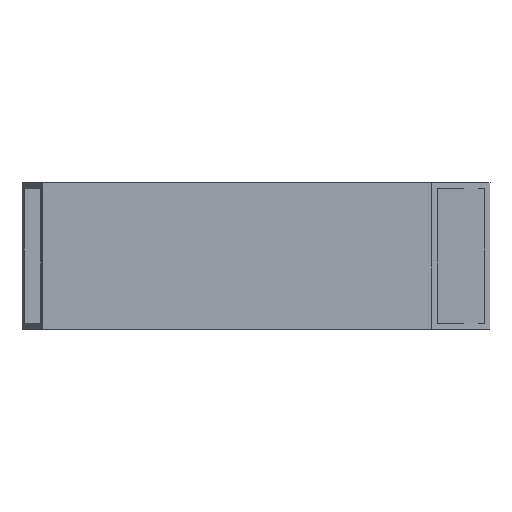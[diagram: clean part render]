
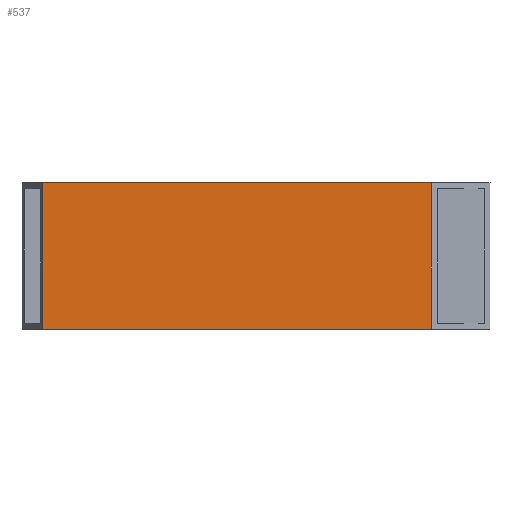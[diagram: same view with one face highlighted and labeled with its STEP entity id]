
A CAD part, top view. The second image highlights one B-rep face of the part: STEP entity #537.
In plain terms, the highlighted planar face has unit normal (0, 0, 1).
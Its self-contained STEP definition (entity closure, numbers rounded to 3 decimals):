
#266=ORIENTED_EDGE('',*,*,#378,.T.);
#267=ORIENTED_EDGE('',*,*,#379,.F.);
#268=ORIENTED_EDGE('',*,*,#374,.F.);
#269=ORIENTED_EDGE('',*,*,#380,.T.);
#310=VECTOR('',#424,1.);
#314=VECTOR('',#430,1.);
#315=VECTOR('',#431,1.);
#316=VECTOR('',#432,1.);
#334=LINE('',#469,#310);
#338=LINE('',#478,#314);
#339=LINE('',#479,#315);
#340=LINE('',#480,#316);
#358=VERTEX_POINT('',#467);
#359=VERTEX_POINT('',#468);
#362=VERTEX_POINT('',#476);
#363=VERTEX_POINT('',#477);
#374=EDGE_CURVE('',#358,#359,#334,.T.);
#378=EDGE_CURVE('',#362,#363,#338,.T.);
#379=EDGE_CURVE('',#359,#363,#339,.T.);
#380=EDGE_CURVE('',#358,#362,#340,.T.);
#399=EDGE_LOOP('',(#266,#267,#268,#269));
#411=FACE_BOUND('',#399,.T.);
#424=DIRECTION('',(-132.487,0.,0.));
#428=DIRECTION('',(0.,0.,1.));
#429=DIRECTION('',(0.,-1.,0.));
#430=DIRECTION('',(-132.487,0.,0.));
#431=DIRECTION('',(0.,50.,0.));
#432=DIRECTION('',(0.,50.,0.));
#467=CARTESIAN_POINT('',(140.,0.,20.));
#468=CARTESIAN_POINT('',(7.513,0.,20.));
#469=CARTESIAN_POINT('',(140.,0.,20.));
#475=CARTESIAN_POINT('',(308.988,50.,20.));
#476=CARTESIAN_POINT('',(140.,50.,20.));
#477=CARTESIAN_POINT('',(7.513,50.,20.));
#478=CARTESIAN_POINT('',(140.,50.,20.));
#479=CARTESIAN_POINT('',(7.513,0.,20.));
#480=CARTESIAN_POINT('',(140.,0.,20.));
#517=AXIS2_PLACEMENT_3D('',#475,#428,#429);
#527=PLANE('',#517);
#537=ADVANCED_FACE('',(#411),#527,.T.);
